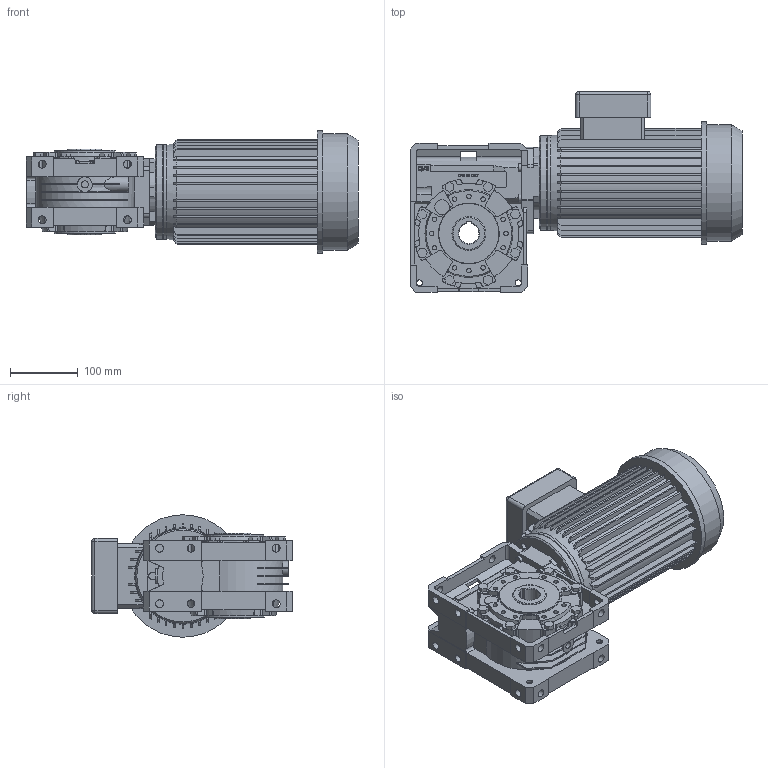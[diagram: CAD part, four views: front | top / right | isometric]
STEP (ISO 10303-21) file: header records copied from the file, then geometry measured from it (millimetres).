
FILE_DESCRIPTION( ( 'Unknown' ), '1' );
FILE_NAME( 'E:/services/configuratordownloads/customers/HYDROMEC/VSFQ/download/1F9054D878ADD9E0D841B5E2385C8346/STEP/1F9054D878ADD9E0D841B5E2385C8346.3d.stp', 'Unknown', ( 'Unknown' ), ( 'Unknown' ), 'PSStep 10.1', 'Unknown', ' ' );
FILE_SCHEMA( ( 'AUTOMOTIVE_DESIGN { 1 0 10303 214 1 1 1 1 }' ) );
Length unit declared in the file: millimetre
Products named in the file (1): Q758800
Bounding box: 491 x 297 x 181 mm (x, y, z)
Volume: 8893901.2 mm3; surface area: 643584 mm2
Topology: 1 solids, 20 shells, 1322 faces, 3557 edges, 2362 vertices
Faces by surface type: plane 873, cylinder 370, extrusion 40, cone 32, sphere 4, torus 3
Full cylindrical faces by diameter (mm): 4.917 x6, 6.647 x32, 6.8 x8, 8.75 x8, 9 x4, 10 x4, 10.2 x3, 11.5 x16, 22 x1, 40 x1, 44.5 x1, 50 x2, 62 x1, 90 x1, 93.5 x1, 140 x2, 172 x1, 181 x1
Entity records: 52762 total; most frequent: CARTESIAN_POINT 8963, ORIENTED_EDGE 6824, DIRECTION 6815, EDGE_CURVE 3412, VERTEX_POINT 2324, VECTOR 2309, LINE 2269, AXIS2_PLACEMENT_3D 2253
